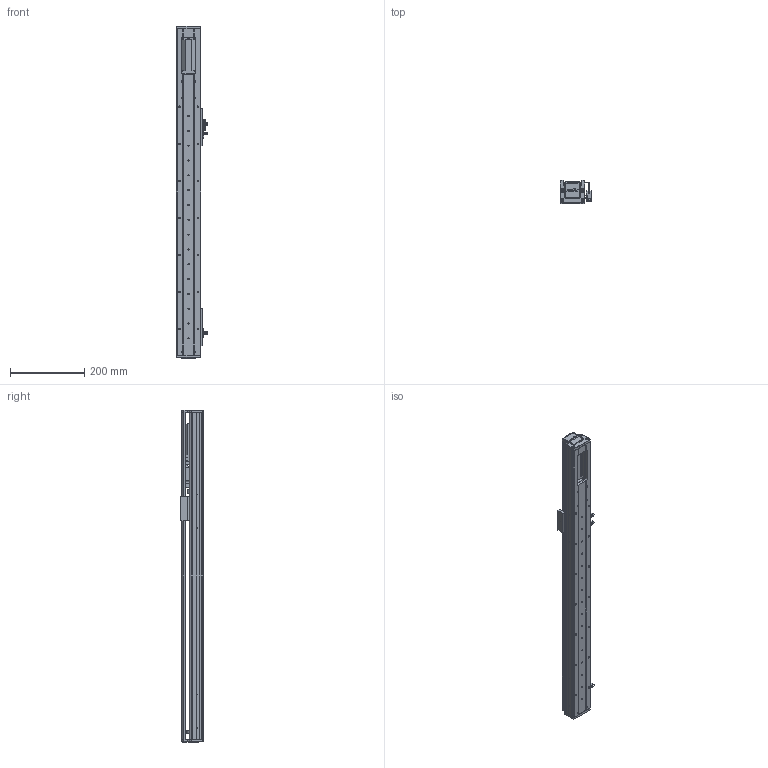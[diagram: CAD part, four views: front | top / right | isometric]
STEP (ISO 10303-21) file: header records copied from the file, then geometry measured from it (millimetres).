
FILE_DESCRIPTION (( 'STEP AP203' ), '1' );
FILE_NAME ('RY60-L1210-300-IK.SLDASM_550.step', '2021-02-22T05:12:11', ( '盈信电脑' ), ( '东莞市道滘镇水果街19号' ), 'SwSTEP 2.0', 'SolidWorks 2012', '' );
FILE_SCHEMA (( 'CONFIG_CONTROL_DESIGN' ));
Length unit declared in the file: millimetre
Products named in the file (12): RY60萇儂傷盓傅釱; RY60-300倰第裔啣-IK_550; RY60臏賑輸; RY60-300倰第菁釱-IK_550; RY60-内置电机板100W（m3）; RY60-L1210-300-IK.SLDASM_550; 滅袉蝶18-10; 侂狟100W; RY80俋离覜茼え; 覜茼ん672; RY60綴裔啣; 672嫖萇羲壽假蚾釱
Assembly tree (18 placements, depth 2):
  RY60-L1210-300-IK.SLDASM_550
    RY60-300倰第菁釱-IK_550
    RY60臏賑輸
    RY60-300倰第裔啣-IK_550
    RY60萇儂傷盓傅釱
    672嫖萇羲壽假蚾釱  x2
    RY60綴裔啣  x2
    覜茼ん672  x3
    RY80俋离覜茼え
    侂狟100W
    滅袉蝶18-10  x4
    RY60-内置电机板100W（m3）
Bounding box: 83.7 x 61 x 896 mm (x, y, z)
Volume: 1112239.4 mm3; surface area: 549137.2 mm2
Topology: 18 solids, 18 shells, 1525 faces, 4278 edges, 2769 vertices
Faces by surface type: plane 809, cylinder 604, cone 96, bspline 16
Entity records: 41835 total; most frequent: CARTESIAN_POINT 10172, ORIENTED_EDGE 6456, DIRECTION 6143, EDGE_CURVE 3228, VERTEX_POINT 2115, AXIS2_PLACEMENT_3D 2080, VECTOR 1983, LINE 1983
